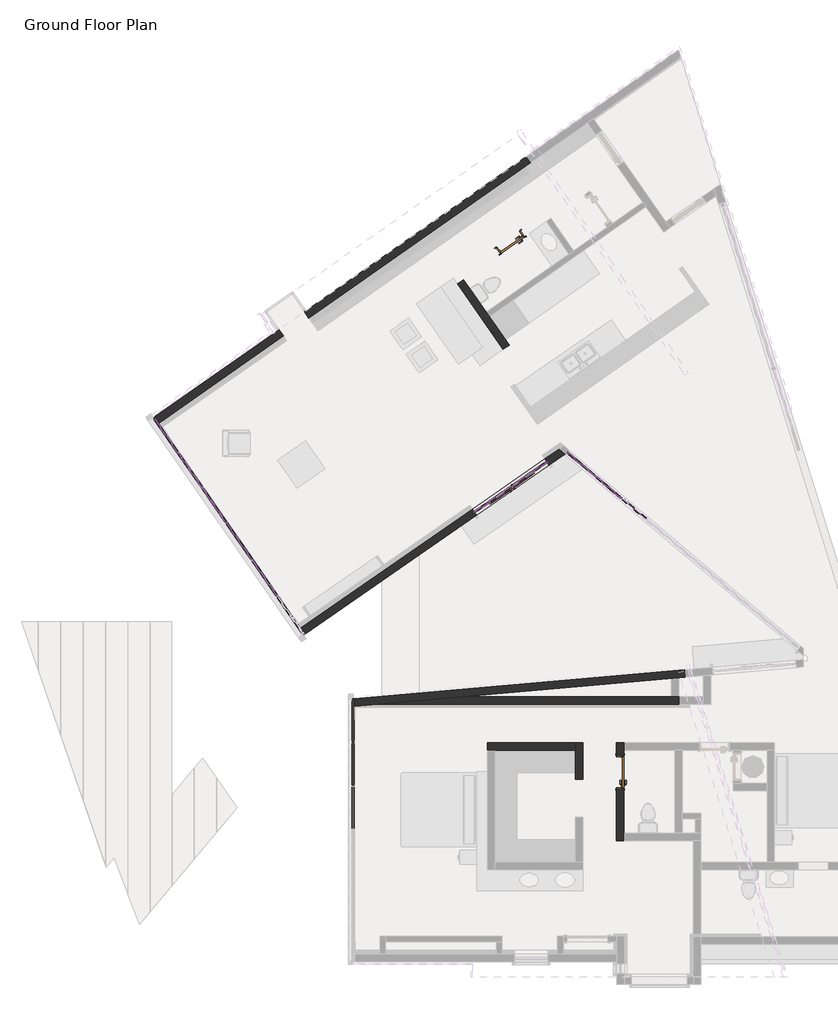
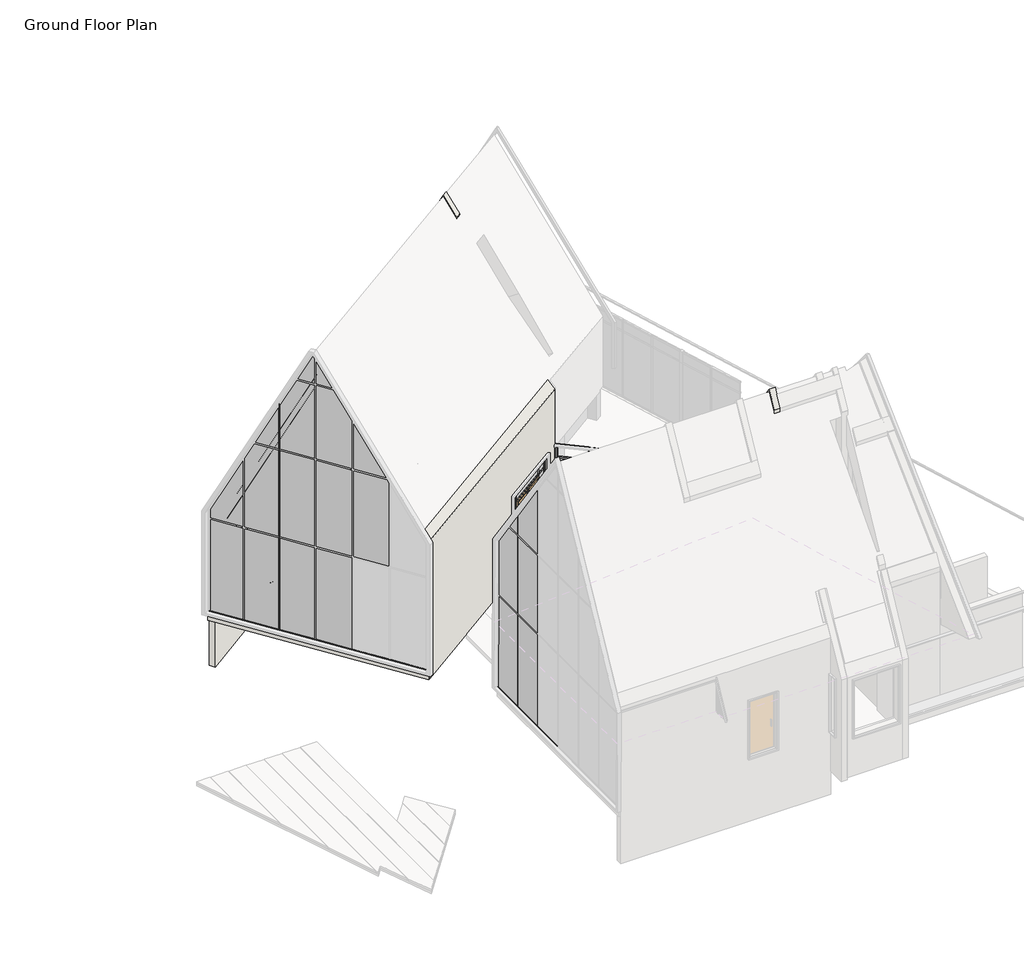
# One storey, part 2 of 5: 39 members, 25 plates, 10 walls, 3 doors.
"""IFC4 building model written with IfcOpenShell, lengths in millimetres."""

from ifc_helpers import new_model, si_unit, origin, origin_with_axes, place, context, project, spatial, polyline, outline, extrude, faceted_brep, transform, mapped, element, save
from components import doors_intsgl_810x2110mm_e568eb51, doors_intsgl_910x2110mm_46137337, m_door_curtain_wall_double_storefront_m_door_curtain_wall_3f7023ba, rectangular_mullion_50x150mm_25fa57b6, rectangular_mullion_50x150mm_a60d6222, rectangular_mullion_50x150mm_495123ae, rectangular_mullion_50x150mm_d93cb402, rectangular_mullion_50x150mm_c05da0b8, rectangular_mullion_50x150mm_9b9afa98, rectangular_mullion_50x150mm_3dc05bec, rectangular_mullion_50x150mm_6892ae44, rectangular_mullion_50x150mm_0beb519f, rectangular_mullion_50x150mm_d233cf5f, rectangular_mullion_50x150mm_42300aa9, rectangular_mullion_50x150mm_a088287e, rectangular_mullion_50x150mm_e39ed394, rectangular_mullion_50x150mm_51ed58aa, rectangular_mullion_50x150mm_ac0aef06, rectangular_mullion_50x150mm_60adff24, rectangular_mullion_50x150mm_6c6b3207, system_panel_glazed_c96be091, system_panel_glazed_a26fe342, system_panel_glazed_4aa1e5e2, system_panel_glazed_9e3d2c9e, system_panel_glazed_a7ec9935, system_panel_glazed_06d969fb, system_panel_glazed_d3df0774, system_panel_glazed_f7285a28, system_panel_glazed_f8538ccb, system_panel_glazed_5ca7e2f6, system_panel_glazed_4028a920, system_panel_glazed_a2f8f6d2, system_panel_glazed_759725ad, system_panel_glazed_6cebac1c, system_panel_glazed_4f0944f6, system_panel_glazed_2c7f7bc3, system_panel_glazed_912d2ec5, system_panel_glazed_2_529b0a8b, system_panel_glazed_3_6ecbbff0, system_panel_glazed_3_8976361c

model = new_model("IFC4")

# Units and contexts
model_context = context("Model", 3, world=origin())
ifc_project = project(units=[si_unit("LENGTHUNIT", "METRE", prefix="MILLI")], contexts=[model_context])

# Site, building, storey
site = spatial("IfcSite", under=ifc_project)
building = spatial("IfcBuilding", under=site)
storey = spatial("IfcBuildingStorey", under=building, Name="Ground Floor Plan", Elevation=0.0)

# Doors
placement = place(None, origin())
doors_intsgl_810x2110mm_shape = doors_intsgl_810x2110mm_e568eb51(model_context)
element("IfcDoor", 1, ObjectType="Doors_IntSgl : 810x2110mm", at=placement, inside=storey, context=model_context, shape_type="MappedRepresentation", body=[
    mapped(doors_intsgl_810x2110mm_shape, transform((-3413.2346211, 14930.5773501, 142.0), x_axis=(-0.8191520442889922, -0.5735764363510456, 0.0), y_axis=(0.5735764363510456, -0.8191520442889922, 0.0), z_axis=(0.0, 0.0, 1.0))),
])
doors_intsgl_910x2110mm_shape = doors_intsgl_910x2110mm_46137337(model_context)
element("IfcDoor", 2, ObjectType="Doors_IntSgl : 910x2110mm", at=placement, inside=storey, context=model_context, shape_type="MappedRepresentation", body=[
    mapped(doors_intsgl_910x2110mm_shape, transform((-471.2135347, 732.8022092, -8.0), x_axis=(0.0, 1.0, 0.0), y_axis=(-1.0, 0.0, 0.0), z_axis=(0.0, 0.0, 1.0))),
])
m_door_curtain_wall_double_storefront_m_door_curtain_wall_shape = m_door_curtain_wall_double_storefront_m_door_curtain_wall_3f7023ba(model_context)
element("IfcDoor", 3, ObjectType="M_Door-Curtain-Wall-Double-Storefront : M_Door-Curtain-Wall-Double-Storefront", at=placement, inside=storey, context=model_context, shape_type="MappedRepresentation", body=[
    mapped(m_door_curtain_wall_double_storefront_m_door_curtain_wall_shape, transform((-3403.7720782, 8372.1225097, 200.0), x_axis=(0.8223851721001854, 0.5689311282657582, 0.0), y_axis=(-0.5689311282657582, 0.8223851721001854, 0.0), z_axis=(0.0, 0.0, 1.0))),
])

# Members
rectangular_mullion_50x150mm_shape = rectangular_mullion_50x150mm_25fa57b6(model_context)
element("IfcMember", 4, ObjectType="Rectangular Mullion : 50x150mm", at=placement, inside=storey, context=model_context, shape_type="MappedRepresentation", body=[
    mapped(rectangular_mullion_50x150mm_shape, transform((-11674.3512302, 8352.9666925, 300.0), x_axis=(0.0, 0.0, -1.0), y_axis=(-0.8223851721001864, -0.5689311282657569, 0.0), z_axis=(-0.5689311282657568, 0.8223851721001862, 0.0))),
])
element("IfcMember", 5, ObjectType="Rectangular Mullion : 50x150mm", at=placement, inside=storey, context=model_context, shape_type="MappedRepresentation", body=[
    mapped(rectangular_mullion_50x150mm_shape, transform((-12324.6563321, 9292.9772607, 300.0), x_axis=(0.0, 0.0, -1.0), y_axis=(-0.8223851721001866, -0.5689311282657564, 0.0), z_axis=(-0.5689311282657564, 0.8223851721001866, 0.0))),
])
rectangular_mullion_50x150mm_2_shape = rectangular_mullion_50x150mm_a60d6222(model_context)
element("IfcMember", 6, ObjectType="Rectangular Mullion : 50x150mm", at=placement, inside=storey, context=model_context, shape_type="MappedRepresentation", body=[
    mapped(rectangular_mullion_50x150mm_2_shape, transform((-11024.0461283, 7412.9561242, 300.0), x_axis=(0.0, 0.0, -1.0), y_axis=(-0.8223851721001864, -0.5689311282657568, 0.0), z_axis=(-0.5689311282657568, 0.8223851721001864, 0.0))),
])
element("IfcMember", 7, ObjectType="Rectangular Mullion : 50x150mm", at=placement, inside=storey, context=model_context, shape_type="MappedRepresentation", body=[
    mapped(rectangular_mullion_50x150mm_2_shape, transform((-10335.8122845, 6418.1198779, 300.0), x_axis=(0.0, 0.0, -1.0), y_axis=(-0.8223851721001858, -0.5689311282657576, 0.0), z_axis=(-0.5689311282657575, 0.8223851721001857, 0.0))),
])
element("IfcMember", 8, ObjectType="Rectangular Mullion : 50x150mm", at=placement, inside=storey, context=model_context, shape_type="MappedRepresentation", body=[
    mapped(rectangular_mullion_50x150mm_2_shape, transform((-9647.5784407, 5423.2836315, 300.0), x_axis=(0.0, 0.0, -1.0), y_axis=(-0.8223851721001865, -0.5689311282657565, 0.0), z_axis=(-0.5689311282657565, 0.8223851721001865, 0.0))),
])
rectangular_mullion_50x150mm_3_shape = rectangular_mullion_50x150mm_495123ae(model_context)
element("IfcMember", 9, ObjectType="Rectangular Mullion : 50x150mm", at=placement, inside=storey, context=model_context, shape_type="MappedRepresentation", body=[
    mapped(rectangular_mullion_50x150mm_3_shape, transform((-7628.59105, 365.5965496, 300.0), x_axis=(0.0, 0.0, -1.0), y_axis=(-1.0, 0.0, 0.0), z_axis=(0.0, 1.0, 0.0))),
])
element("IfcMember", 10, ObjectType="Rectangular Mullion : 50x150mm", at=placement, inside=storey, context=model_context, shape_type="MappedRepresentation", body=[
    mapped(rectangular_mullion_50x150mm_3_shape, transform((-7628.59105, 1533.2395184, 300.0), x_axis=(0.0, 0.0, -1.0), y_axis=(-1.0, 0.0, 0.0), z_axis=(0.0, 1.0, 0.0))),
])
rectangular_mullion_50x150mm_4_shape = rectangular_mullion_50x150mm_d93cb402(model_context)
element("IfcMember", 11, ObjectType="Rectangular Mullion : 50x150mm", at=placement, inside=storey, context=model_context, shape_type="MappedRepresentation", body=[
    mapped(rectangular_mullion_50x150mm_4_shape, transform((-12952.0448904, 10199.8621574, 300.0), x_axis=(0.0, 0.0, -1.0), y_axis=(-0.8223851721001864, -0.5689311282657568, 0.0), z_axis=(-0.5689311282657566, 0.8223851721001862, 0.0))),
])
element("IfcMember", 12, ObjectType="Rectangular Mullion : 50x150mm", at=placement, inside=storey, context=model_context, shape_type="MappedRepresentation", body=[
    mapped(rectangular_mullion_50x150mm_3_shape, transform((-7628.59105, 2700.8824873, 300.0), x_axis=(0.0, 0.0, -1.0), y_axis=(-1.0, 0.0, 0.0), z_axis=(0.0, 1.0, 0.0))),
])
rectangular_mullion_50x150mm_5_shape = rectangular_mullion_50x150mm_c05da0b8(model_context)
element("IfcMember", 13, ObjectType="Rectangular Mullion : 50x150mm", at=placement, inside=storey, context=model_context, shape_type="MappedRepresentation", body=[
    mapped(rectangular_mullion_50x150mm_5_shape, transform((-1109.694548, 8642.7845682, 150.0), x_axis=(0.0, 0.0, -1.0), y_axis=(-0.6453696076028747, -0.7638704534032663, 0.0), z_axis=(-0.7638704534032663, 0.6453696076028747, 0.0))),
])
element("IfcMember", 14, ObjectType="Rectangular Mullion : 50x150mm", at=placement, inside=storey, context=model_context, shape_type="MappedRepresentation", body=[
    mapped(rectangular_mullion_50x150mm_5_shape, transform((-422.21114, 8061.9519213, 150.0), x_axis=(0.0, 0.0, -1.0), y_axis=(-0.6453696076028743, -0.7638704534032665, 0.0), z_axis=(-0.7638704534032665, 0.6453696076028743, 0.0))),
])
rectangular_mullion_50x150mm_6_shape = rectangular_mullion_50x150mm_9b9afa98(model_context)
element("IfcMember", 15, ObjectType="Rectangular Mullion : 50x150mm", at=placement, inside=storey, context=model_context, shape_type="MappedRepresentation", body=[
    mapped(rectangular_mullion_50x150mm_6_shape, transform((-4020.5609573, 7945.4241635, 150.0), x_axis=(0.8223851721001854, 0.5689311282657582, 0.0), y_axis=(0.5689311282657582, -0.8223851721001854, 0.0), z_axis=(0.0, 0.0, -1.0))),
])
element("IfcMember", 16, ObjectType="Rectangular Mullion : 50x150mm", at=placement, inside=storey, context=model_context, shape_type="MappedRepresentation", body=[
    mapped(rectangular_mullion_50x150mm_6_shape, transform((-2786.9831992, 8798.8208559, 150.0), x_axis=(0.8223851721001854, 0.5689311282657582, 0.0), y_axis=(0.5689311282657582, -0.8223851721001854, 0.0), z_axis=(0.0, 0.0, -1.0))),
])
element("IfcMember", 17, ObjectType="Rectangular Mullion : 50x150mm", at=placement, inside=storey, context=model_context, shape_type="MappedRepresentation", body=[
    mapped(rectangular_mullion_50x150mm_6_shape, transform((-1128.7913094, 8658.9188084, 150.0), x_axis=(0.7638704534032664, -0.6453696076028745, 0.0), y_axis=(-0.6453696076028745, -0.7638704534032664, 0.0), z_axis=(0.0, 0.0, -1.0))),
])
element("IfcMember", 18, ObjectType="Rectangular Mullion : 50x150mm", at=placement, inside=storey, context=model_context, shape_type="MappedRepresentation", body=[
    mapped(rectangular_mullion_50x150mm_6_shape, transform((-441.3079013, 8078.0861615, 150.0), x_axis=(0.7638704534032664, -0.6453696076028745, 0.0), y_axis=(-0.6453696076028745, -0.7638704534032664, 0.0), z_axis=(0.0, 0.0, -1.0))),
])
rectangular_mullion_50x150mm_7_shape = rectangular_mullion_50x150mm_3dc05bec(model_context)
element("IfcMember", 19, ObjectType="Rectangular Mullion : 50x150mm", at=placement, inside=storey, context=model_context, shape_type="MappedRepresentation", body=[
    mapped(rectangular_mullion_50x150mm_7_shape, transform((-2433.3575752, 9043.4612411, 150.0), x_axis=(0.8223851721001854, 0.5689311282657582, 0.0), y_axis=(0.5689311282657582, -0.8223851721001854, 0.0), z_axis=(0.0, 0.0, -1.0))),
])
element("IfcMember", 20, ObjectType="Rectangular Mullion : 50x150mm", at=placement, inside=storey, context=model_context, shape_type="MappedRepresentation", body=[
    mapped(rectangular_mullion_50x150mm_7_shape, transform((-1887.216233, 9299.6876628, 2450.0), x_axis=(-0.7638704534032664, 0.6453696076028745, 0.0), y_axis=(-0.6453696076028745, -0.7638704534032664, 0.0), z_axis=(0.0, 0.0, 1.0))),
])
element("IfcMember", 21, ObjectType="Rectangular Mullion : 50x150mm", at=placement, inside=storey, context=model_context, shape_type="MappedRepresentation", body=[
    mapped(rectangular_mullion_50x150mm_7_shape, transform((-4374.1865813, 7700.7837784, 2450.0), x_axis=(-0.8223851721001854, -0.5689311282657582, 0.0), y_axis=(0.5689311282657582, -0.8223851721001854, 0.0), z_axis=(0.0, 0.0, 1.0))),
])
rectangular_mullion_50x150mm_8_shape = rectangular_mullion_50x150mm_6892ae44(model_context)
element("IfcMember", 22, ObjectType="Rectangular Mullion : 50x150mm", at=placement, inside=storey, context=model_context, shape_type="MappedRepresentation", body=[
    mapped(rectangular_mullion_50x150mm_8_shape, transform((-4333.0673227, 7729.2303348, 150.0), x_axis=(0.0, 0.0, -1.0), y_axis=(0.5689311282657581, -0.8223851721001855, 0.0), z_axis=(-0.8223851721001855, -0.5689311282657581, 0.0))),
])
rectangular_mullion_50x150mm_9_shape = rectangular_mullion_50x150mm_0beb519f(model_context)
element("IfcMember", 23, ObjectType="Rectangular Mullion : 50x150mm", at=placement, inside=storey, context=model_context, shape_type="MappedRepresentation", body=[
    mapped(rectangular_mullion_50x150mm_9_shape, transform((-4000.001328, 7959.6474417, 150.0), x_axis=(0.0, 0.0, -1.0), y_axis=(0.5689311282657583, -0.8223851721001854, 0.0), z_axis=(-0.8223851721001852, -0.5689311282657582, 0.0))),
])
element("IfcMember", 24, ObjectType="Rectangular Mullion : 50x150mm", at=placement, inside=storey, context=model_context, shape_type="MappedRepresentation", body=[
    mapped(rectangular_mullion_50x150mm_8_shape, transform((-2766.4235699, 8813.0441341, 150.0), x_axis=(0.0, 0.0, -1.0), y_axis=(0.5689311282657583, -0.8223851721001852, 0.0), z_axis=(-0.8223851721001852, -0.5689311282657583, 0.0))),
])
element("IfcMember", 25, ObjectType="Rectangular Mullion : 50x150mm", at=placement, inside=storey, context=model_context, shape_type="MappedRepresentation", body=[
    mapped(rectangular_mullion_50x150mm_8_shape, transform((-2474.4768338, 9015.0146847, 2900.0), x_axis=(0.0, 0.0, 1.0), y_axis=(0.5689311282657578, -0.8223851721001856, 0.0), z_axis=(0.8223851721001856, 0.5689311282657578, 0.0))),
])
element("IfcMember", 26, ObjectType="Rectangular Mullion : 50x150mm", at=placement, inside=storey, context=model_context, shape_type="MappedRepresentation", body=[
    mapped(rectangular_mullion_50x150mm_8_shape, transform((-4041.1205866, 7931.2008853, 2900.0), x_axis=(0.0, 0.0, 1.0), y_axis=(0.5689311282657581, -0.8223851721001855, 0.0), z_axis=(0.8223851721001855, 0.5689311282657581, 0.0))),
])
element("IfcMember", 27, ObjectType="Rectangular Mullion : 50x150mm", at=placement, inside=storey, context=model_context, shape_type="MappedRepresentation", body=[
    mapped(rectangular_mullion_50x150mm_9_shape, transform((-2807.5428285, 8784.5975777, 2900.0), x_axis=(0.0, 0.0, 1.0), y_axis=(0.5689311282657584, -0.8223851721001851, 0.0), z_axis=(0.8223851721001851, 0.5689311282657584, 0.0))),
])
rectangular_mullion_50x150mm_10_shape = rectangular_mullion_50x150mm_d233cf5f(model_context)
element("IfcMember", 28, ObjectType="Rectangular Mullion : 50x150mm", at=placement, inside=storey, context=model_context, shape_type="MappedRepresentation", body=[
    mapped(rectangular_mullion_50x150mm_10_shape, transform((-1128.7913094, 8658.9188084, 2450.0), x_axis=(0.7638704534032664, -0.6453696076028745, 0.0), y_axis=(-0.6453696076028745, -0.7638704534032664, 0.0), z_axis=(0.0, 0.0, -1.0))),
])
element("IfcMember", 29, ObjectType="Rectangular Mullion : 50x150mm", at=placement, inside=storey, context=model_context, shape_type="MappedRepresentation", body=[
    mapped(rectangular_mullion_50x150mm_10_shape, transform((-441.3079013, 8078.0861615, 2450.0), x_axis=(0.7638704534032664, -0.6453696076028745, 0.0), y_axis=(-0.6453696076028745, -0.7638704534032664, 0.0), z_axis=(0.0, 0.0, -1.0))),
])
element("IfcMember", 30, ObjectType="Rectangular Mullion : 50x150mm", at=placement, inside=storey, context=model_context, shape_type="MappedRepresentation", body=[
    mapped(rectangular_mullion_50x150mm_10_shape, transform((-4020.5609573, 7945.4241635, 2450.0), x_axis=(0.8223851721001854, 0.5689311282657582, 0.0), y_axis=(0.5689311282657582, -0.8223851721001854, 0.0), z_axis=(0.0, 0.0, -1.0))),
])
element("IfcMember", 31, ObjectType="Rectangular Mullion : 50x150mm", at=placement, inside=storey, context=model_context, shape_type="MappedRepresentation", body=[
    mapped(rectangular_mullion_50x150mm_10_shape, transform((-2786.9831992, 8798.8208559, 2450.0), x_axis=(0.8223851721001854, 0.5689311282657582, 0.0), y_axis=(0.5689311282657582, -0.8223851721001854, 0.0), z_axis=(0.0, 0.0, -1.0))),
])
rectangular_mullion_50x150mm_11_shape = rectangular_mullion_50x150mm_42300aa9(model_context)
element("IfcMember", 32, ObjectType="Rectangular Mullion : 50x150mm", at=placement, inside=storey, context=model_context, shape_type="MappedRepresentation", body=[
    mapped(rectangular_mullion_50x150mm_11_shape, transform((-2474.4768338, 9015.0146847, 2450.0), x_axis=(0.0, 0.0, 1.0), y_axis=(0.5689311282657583, -0.8223851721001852, 0.0), z_axis=(0.8223851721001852, 0.5689311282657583, 0.0))),
])
rectangular_mullion_50x150mm_12_shape = rectangular_mullion_50x150mm_a088287e(model_context)
element("IfcMember", 33, ObjectType="Rectangular Mullion : 50x150mm", at=placement, inside=storey, context=model_context, shape_type="MappedRepresentation", body=[
    mapped(rectangular_mullion_50x150mm_12_shape, transform((-2807.5428285, 8784.5975777, 2450.0), x_axis=(0.0, 0.0, 1.0), y_axis=(0.5689311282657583, -0.8223851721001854, 0.0), z_axis=(0.8223851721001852, 0.5689311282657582, 0.0))),
])
element("IfcMember", 34, ObjectType="Rectangular Mullion : 50x150mm", at=placement, inside=storey, context=model_context, shape_type="MappedRepresentation", body=[
    mapped(rectangular_mullion_50x150mm_11_shape, transform((-4041.1205866, 7931.2008853, 2450.0), x_axis=(0.0, 0.0, 1.0), y_axis=(0.5689311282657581, -0.8223851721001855, 0.0), z_axis=(0.8223851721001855, 0.5689311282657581, 0.0))),
])
rectangular_mullion_50x150mm_13_shape = rectangular_mullion_50x150mm_e39ed394(model_context)
element("IfcMember", 35, ObjectType="Rectangular Mullion : 50x150mm", at=placement, inside=storey, context=model_context, shape_type="MappedRepresentation", body=[
    mapped(rectangular_mullion_50x150mm_13_shape, transform((-4374.1865813, 7700.7837784, 2900.0), x_axis=(-0.8223851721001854, -0.5689311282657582, 0.0), y_axis=(0.5689311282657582, -0.8223851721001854, 0.0), z_axis=(0.0, 0.0, 1.0))),
])
element("IfcMember", 36, ObjectType="Rectangular Mullion : 50x150mm", at=placement, inside=storey, context=model_context, shape_type="MappedRepresentation", body=[
    mapped(rectangular_mullion_50x150mm_13_shape, transform((-2433.3575752, 9043.4612411, 2450.0), x_axis=(0.8223851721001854, 0.5689311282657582, 0.0), y_axis=(0.5689311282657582, -0.8223851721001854, 0.0), z_axis=(0.0, 0.0, -1.0))),
])
rectangular_mullion_50x150mm_14_shape = rectangular_mullion_50x150mm_51ed58aa(model_context)
element("IfcMember", 37, ObjectType="Rectangular Mullion : 50x150mm", at=placement, inside=storey, context=model_context, shape_type="MappedRepresentation", body=[
    mapped(rectangular_mullion_50x150mm_14_shape, transform((-460.4046626, 8094.2204017, 2450.0), x_axis=(0.0, 0.0, 1.0), y_axis=(-0.6453696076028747, -0.7638704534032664, 0.0), z_axis=(0.7638704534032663, -0.6453696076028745, 0.0))),
])
element("IfcMember", 38, ObjectType="Rectangular Mullion : 50x150mm", at=placement, inside=storey, context=model_context, shape_type="MappedRepresentation", body=[
    mapped(rectangular_mullion_50x150mm_13_shape, transform((-1887.216233, 9299.6876628, 2900.0), x_axis=(-0.7638704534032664, 0.6453696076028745, 0.0), y_axis=(-0.6453696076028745, -0.7638704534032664, 0.0), z_axis=(0.0, 0.0, 1.0))),
])
rectangular_mullion_50x150mm_15_shape = rectangular_mullion_50x150mm_ac0aef06(model_context)
element("IfcMember", 39, ObjectType="Rectangular Mullion : 50x150mm", at=placement, inside=storey, context=model_context, shape_type="MappedRepresentation", body=[
    mapped(rectangular_mullion_50x150mm_15_shape, transform((-1849.0227104, 9267.4191825, 150.0), x_axis=(0.0, 0.0, -1.0), y_axis=(-0.6453696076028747, -0.7638704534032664, 0.0), z_axis=(-0.7638704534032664, 0.6453696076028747, 0.0))),
])
rectangular_mullion_50x150mm_16_shape = rectangular_mullion_50x150mm_60adff24(model_context)
element("IfcMember", 40, ObjectType="Rectangular Mullion : 50x150mm", at=placement, inside=storey, context=model_context, shape_type="MappedRepresentation", body=[
    mapped(rectangular_mullion_50x150mm_16_shape, transform((-1147.8880707, 8675.0530486, 2450.0), x_axis=(0.0, 0.0, 1.0), y_axis=(-0.6453696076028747, -0.7638704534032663, 0.0), z_axis=(0.7638704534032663, -0.6453696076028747, 0.0))),
])
element("IfcMember", 41, ObjectType="Rectangular Mullion : 50x150mm", at=placement, inside=storey, context=model_context, shape_type="MappedRepresentation", body=[
    mapped(rectangular_mullion_50x150mm_5_shape, transform((-460.4046626, 8094.2204017, 2900.0), x_axis=(0.0, 0.0, 1.0), y_axis=(-0.6453696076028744, -0.7638704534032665, 0.0), z_axis=(0.7638704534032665, -0.6453696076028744, 0.0))),
])
rectangular_mullion_50x150mm_17_shape = rectangular_mullion_50x150mm_6c6b3207(model_context)
element("IfcMember", 42, ObjectType="Rectangular Mullion : 50x150mm", at=placement, inside=storey, context=model_context, shape_type="MappedRepresentation", body=[
    mapped(rectangular_mullion_50x150mm_17_shape, transform((-1147.8880707, 8675.0530486, 2900.0), x_axis=(0.0, 0.0, 1.0), y_axis=(-0.6453696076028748, -0.7638704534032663, 0.0), z_axis=(0.7638704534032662, -0.6453696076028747, 0.0))),
])

# Plates
system_panel_glazed_shape = system_panel_glazed_c96be091(model_context)
element("IfcPlate", 43, ObjectType="System Panel : Glazed", at=placement, inside=storey, context=model_context, shape_type="MappedRepresentation", body=[
    mapped(system_panel_glazed_shape, transform((-11349.1986793, 7882.9614083, 6709.3032525), x_axis=(0.5689311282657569, -0.8223851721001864, 0.0), y_axis=(0.8223851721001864, 0.5689311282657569, 0.0), z_axis=(0.0, 0.0, 1.0))),
])
system_panel_glazed_2_shape = system_panel_glazed_a26fe342(model_context)
element("IfcPlate", 44, ObjectType="System Panel : Glazed", at=placement, inside=storey, context=model_context, shape_type="MappedRepresentation", body=[
    mapped(system_panel_glazed_2_shape, transform((-10679.9292064, 6915.538001, 6709.3032525), x_axis=(0.5689311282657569, -0.8223851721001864, 0.0), y_axis=(0.8223851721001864, 0.5689311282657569, 0.0), z_axis=(0.0, 0.0, 1.0))),
])
system_panel_glazed_3_shape = system_panel_glazed_4aa1e5e2(model_context)
element("IfcPlate", 45, ObjectType="System Panel : Glazed", at=placement, inside=storey, context=model_context, shape_type="MappedRepresentation", body=[
    mapped(system_panel_glazed_3_shape, transform((-9995.9204202, 5926.80904, 6709.3032525), x_axis=(0.5689311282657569, -0.8223851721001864, 0.0), y_axis=(0.8223851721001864, 0.5689311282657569, 0.0), z_axis=(0.0, 0.0, 1.0))),
])
system_panel_glazed_4_shape = system_panel_glazed_9e3d2c9e(model_context)
element("IfcPlate", 46, ObjectType="System Panel : Glazed", at=placement, inside=storey, context=model_context, shape_type="MappedRepresentation", body=[
    mapped(system_panel_glazed_4_shape, transform((-9991.6953626, 5920.7017547, 3609.3032525), x_axis=(0.5689311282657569, -0.8223851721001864, 0.0), y_axis=(0.8223851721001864, 0.5689311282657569, 0.0), z_axis=(0.0, 0.0, 1.0))),
])
system_panel_glazed_5_shape = system_panel_glazed_a7ec9935(model_context)
element("IfcPlate", 47, ObjectType="System Panel : Glazed", at=placement, inside=storey, context=model_context, shape_type="MappedRepresentation", body=[
    mapped(system_panel_glazed_5_shape, transform((-11349.1986793, 7882.9614083, 350.0), x_axis=(0.5689311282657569, -0.8223851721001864, 0.0), y_axis=(0.8223851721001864, 0.5689311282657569, 0.0), z_axis=(0.0, 0.0, 1.0))),
])
element("IfcPlate", 48, ObjectType="System Panel : Glazed", at=placement, inside=storey, context=model_context, shape_type="MappedRepresentation", body=[
    mapped(system_panel_glazed_5_shape, transform((-11999.5037812, 8822.9719766, 350.0), x_axis=(0.5689311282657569, -0.8223851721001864, 0.0), y_axis=(0.8223851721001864, 0.5689311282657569, 0.0), z_axis=(0.0, 0.0, 1.0))),
])
system_panel_glazed_6_shape = system_panel_glazed_06d969fb(model_context)
element("IfcPlate", 49, ObjectType="System Panel : Glazed", at=placement, inside=storey, context=model_context, shape_type="MappedRepresentation", body=[
    mapped(system_panel_glazed_6_shape, transform((-10679.9292064, 6915.538001, 350.0), x_axis=(0.5689311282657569, -0.8223851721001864, 0.0), y_axis=(0.8223851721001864, 0.5689311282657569, 0.0), z_axis=(0.0, 0.0, 1.0))),
])
system_panel_glazed_7_shape = system_panel_glazed_d3df0774(model_context)
element("IfcPlate", 50, ObjectType="System Panel : Glazed", at=placement, inside=storey, context=model_context, shape_type="MappedRepresentation", body=[
    mapped(system_panel_glazed_7_shape, transform((-11349.1986793, 7882.9614083, 3609.3032525), x_axis=(0.5689311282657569, -0.8223851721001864, 0.0), y_axis=(0.8223851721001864, 0.5689311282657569, 0.0), z_axis=(0.0, 0.0, 1.0))),
])
system_panel_glazed_8_shape = system_panel_glazed_f7285a28(model_context)
element("IfcPlate", 51, ObjectType="System Panel : Glazed", at=placement, inside=storey, context=model_context, shape_type="MappedRepresentation", body=[
    mapped(system_panel_glazed_8_shape, transform((-10679.9292064, 6915.538001, 3609.3032525), x_axis=(0.5689311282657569, -0.8223851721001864, 0.0), y_axis=(0.8223851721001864, 0.5689311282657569, 0.0), z_axis=(0.0, 0.0, 1.0))),
])
system_panel_glazed_9_shape = system_panel_glazed_f8538ccb(model_context)
element("IfcPlate", 52, ObjectType="System Panel : Glazed", at=placement, inside=storey, context=model_context, shape_type="MappedRepresentation", body=[
    mapped(system_panel_glazed_9_shape, transform((-12638.3506113, 9746.419709, 350.0), x_axis=(0.5689311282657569, -0.8223851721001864, 0.0), y_axis=(0.8223851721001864, 0.5689311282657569, 0.0), z_axis=(0.0, 0.0, 1.0))),
])
system_panel_glazed_10_shape = system_panel_glazed_5ca7e2f6(model_context)
element("IfcPlate", 53, ObjectType="System Panel : Glazed", at=placement, inside=storey, context=model_context, shape_type="MappedRepresentation", body=[
    mapped(system_panel_glazed_10_shape, transform((-11917.636464, 8704.6334565, 6709.3032525), x_axis=(0.5689311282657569, -0.8223851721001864, 0.0), y_axis=(0.8223851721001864, 0.5689311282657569, 0.0), z_axis=(0.0, 0.0, 1.0))),
])
system_panel_glazed_11_shape = system_panel_glazed_4028a920(model_context)
element("IfcPlate", 54, ObjectType="System Panel : Glazed", at=placement, inside=storey, context=model_context, shape_type="MappedRepresentation", body=[
    mapped(system_panel_glazed_11_shape, transform((-12638.3506113, 9746.419709, 3609.3032525), x_axis=(0.5689311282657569, -0.8223851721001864, 0.0), y_axis=(0.8223851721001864, 0.5689311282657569, 0.0), z_axis=(0.0, 0.0, 1.0))),
])
system_panel_glazed_12_shape = system_panel_glazed_a2f8f6d2(model_context)
element("IfcPlate", 55, ObjectType="System Panel : Glazed", at=placement, inside=storey, context=model_context, shape_type="MappedRepresentation", body=[
    mapped(system_panel_glazed_12_shape, transform((-11999.5037812, 8822.9719766, 3609.3032525), x_axis=(0.5689311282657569, -0.8223851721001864, 0.0), y_axis=(0.8223851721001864, 0.5689311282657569, 0.0), z_axis=(0.0, 0.0, 1.0))),
])
system_panel_glazed_13_shape = system_panel_glazed_759725ad(model_context)
element("IfcPlate", 56, ObjectType="System Panel : Glazed", at=placement, inside=storey, context=model_context, shape_type="MappedRepresentation", body=[
    mapped(system_panel_glazed_13_shape, transform((-7628.59105, 2117.0610028, 350.0), x_axis=(0.0, -1.0, 0.0), y_axis=(1.0, 0.0, 0.0), z_axis=(0.0, 0.0, 1.0))),
])
system_panel_glazed_14_shape = system_panel_glazed_6cebac1c(model_context)
element("IfcPlate", 57, ObjectType="System Panel : Glazed", at=placement, inside=storey, context=model_context, shape_type="MappedRepresentation", body=[
    mapped(system_panel_glazed_14_shape, transform((-7628.59105, 949.418034, 350.0), x_axis=(0.0, -1.0, 0.0), y_axis=(1.0, 0.0, 0.0), z_axis=(0.0, 0.0, 1.0))),
])
system_panel_glazed_15_shape = system_panel_glazed_4f0944f6(model_context)
element("IfcPlate", 58, ObjectType="System Panel : Glazed", at=placement, inside=storey, context=model_context, shape_type="MappedRepresentation", body=[
    mapped(system_panel_glazed_15_shape, transform((-785.0496053, 8368.502485, 200.0), x_axis=(0.7638704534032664, -0.6453696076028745, 0.0), y_axis=(0.6453696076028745, 0.7638704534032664, 0.0), z_axis=(0.0, 0.0, 1.0))),
])
element("IfcPlate", 59, ObjectType="System Panel : Glazed", at=placement, inside=storey, context=model_context, shape_type="MappedRepresentation", body=[
    mapped(system_panel_glazed_15_shape, transform((-97.5661973, 7787.6698381, 200.0), x_axis=(0.7638704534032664, -0.6453696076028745, 0.0), y_axis=(0.6453696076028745, 0.7638704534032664, 0.0), z_axis=(0.0, 0.0, 1.0))),
])
system_panel_glazed_16_shape = system_panel_glazed_2c7f7bc3(model_context)
element("IfcPlate", 60, ObjectType="System Panel : Glazed", at=placement, inside=storey, context=model_context, shape_type="MappedRepresentation", body=[
    mapped(system_panel_glazed_16_shape, transform((-4187.0939547, 7830.21561, 200.0), x_axis=(0.8223851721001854, 0.5689311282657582, 0.0), y_axis=(-0.5689311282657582, 0.8223851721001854, 0.0), z_axis=(0.0, 0.0, 1.0))),
])
element("IfcPlate", 61, ObjectType="System Panel : Glazed", at=placement, inside=storey, context=model_context, shape_type="MappedRepresentation", body=[
    mapped(system_panel_glazed_16_shape, transform((-2620.4502018, 8914.0294094, 200.0), x_axis=(0.8223851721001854, 0.5689311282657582, 0.0), y_axis=(-0.5689311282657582, 0.8223851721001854, 0.0), z_axis=(0.0, 0.0, 1.0))),
])
system_panel_glazed_17_shape = system_panel_glazed_912d2ec5(model_context)
element("IfcPlate", 62, ObjectType="System Panel : Glazed", at=placement, inside=storey, context=model_context, shape_type="MappedRepresentation", body=[
    mapped(system_panel_glazed_17_shape, transform((-1498.4553905, 8971.2361155, 200.0), x_axis=(0.7638704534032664, -0.6453696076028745, 0.0), y_axis=(0.6453696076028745, 0.7638704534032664, 0.0), z_axis=(0.0, 0.0, 1.0))),
])
system_panel_glazed_2_2_shape = system_panel_glazed_2_529b0a8b(model_context)
element("IfcPlate", 63, ObjectType="System Panel : Glazed 2", at=placement, inside=storey, context=model_context, shape_type="MappedRepresentation", body=[
    mapped(system_panel_glazed_2_2_shape, transform((-785.0496053, 8368.502485, 2475.0), x_axis=(0.7638704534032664, -0.6453696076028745, 0.0), y_axis=(0.6453696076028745, 0.7638704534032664, 0.0), z_axis=(0.0, 0.0, 1.0))),
])
element("IfcPlate", 64, ObjectType="System Panel : Glazed 2", at=placement, inside=storey, context=model_context, shape_type="MappedRepresentation", body=[
    mapped(system_panel_glazed_2_2_shape, transform((-97.5661973, 7787.6698381, 2475.0), x_axis=(0.7638704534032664, -0.6453696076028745, 0.0), y_axis=(0.6453696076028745, 0.7638704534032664, 0.0), z_axis=(0.0, 0.0, 1.0))),
])
system_panel_glazed_3_2_shape = system_panel_glazed_3_6ecbbff0(model_context)
element("IfcPlate", 65, ObjectType="System Panel : Glazed 3", at=placement, inside=storey, context=model_context, shape_type="MappedRepresentation", body=[
    mapped(system_panel_glazed_3_2_shape, transform((-4187.0939547, 7830.21561, 2475.0), x_axis=(0.8223851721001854, 0.5689311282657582, 0.0), y_axis=(-0.5689311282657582, 0.8223851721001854, 0.0), z_axis=(0.0, 0.0, 1.0))),
])
element("IfcPlate", 66, ObjectType="System Panel : Glazed 3", at=placement, inside=storey, context=model_context, shape_type="MappedRepresentation", body=[
    mapped(system_panel_glazed_3_2_shape, transform((-2620.4502018, 8914.0294094, 2475.0), x_axis=(0.8223851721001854, 0.5689311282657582, 0.0), y_axis=(-0.5689311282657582, 0.8223851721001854, 0.0), z_axis=(0.0, 0.0, 1.0))),
])
system_panel_glazed_3_3_shape = system_panel_glazed_3_8976361c(model_context)
element("IfcPlate", 67, ObjectType="System Panel : Glazed 3", at=placement, inside=storey, context=model_context, shape_type="MappedRepresentation", body=[
    mapped(system_panel_glazed_3_3_shape, transform((-3403.7720782, 8372.1225097, 2475.0), x_axis=(0.8223851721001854, 0.5689311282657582, 0.0), y_axis=(-0.5689311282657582, 0.8223851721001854, 0.0), z_axis=(0.0, 0.0, 1.0))),
])

# Walls
element("IfcWall", 68, ObjectType="Dwarf wall", at=placement, inside=storey, context=model_context, shape_type="SweptSolid", body=[
    extrude(outline(polyline([(-8969.9375796, 4399.817403), (-12996.5322718, 10220.226244), (-12955.4130132, 10248.6728004), (-8928.818321, 4428.2639594), (-8969.9375796, 4399.817403)])), origin_with_axes(), (0.0, 0.0, 1.0), 300.0),
])
element("IfcWall", 69, ObjectType="DEFAULT", at=placement, inside=storey, context=model_context, shape_type="Brep", body=[
    faceted_brep([(-12817.787969, 10099.9532, -1653.684233), (-9496.2147174, 12425.7438296, -1653.684233), (-9496.2147174, 12425.7438296, 0.0), (-9496.2147174, 12425.7438296, 4263.7537785), (-12817.787969, 10099.9532, 4316.4983407), (-12932.5032563, 10263.7836089, -1653.684233), (-12932.5032563, 10263.7836089, 3928.0890695), (-9610.9300046, 12589.5742384, 3875.3445073), (-9610.9300046, 12589.5742384, 0.0), (-9610.9300046, 12589.5742384, -1653.684233)], [[[0, 1, 2, 3, 4]], [[5, 6, 7, 8, 9]], [[1, 0, 5, 9]], [[3, 2, 1, 9, 8, 7]], [[0, 4, 6, 5]], [[4, 3, 7, 6]]]),
])
element("IfcWall", 70, ObjectType="DEFAULT", at=placement, inside=storey, context=model_context, shape_type="Brep", body=[
    faceted_brep([(-8818.6256757, 12900.1967844, -1540.3482769), (-2880.0989759, 17058.3979454, -1540.3482769), (-2880.0989759, 17058.3979454, -424.4301837), (-2880.0989759, 17058.3979454, 3150.0), (-2880.0989759, 17058.3979454, 4158.693886), (-8818.6256757, 12900.1967844, 4252.9940768), (-8818.6256757, 12900.1967844, 0.0), (-8933.3409629, 13064.0271932, -1540.3482769), (-8933.3409629, 13064.0271932, 0.0), (-8933.3409629, 13064.0271932, 3864.5848056), (-2994.8142632, 17222.2283543, 3770.2846148), (-2994.8142632, 17222.2283543, 3150.0), (-2994.8142632, 17222.2283543, -424.4301837), (-2994.8142632, 17222.2283543, -1540.3482769)], [[[0, 1, 2, 3, 4, 5, 6]], [[7, 8, 9, 10, 11, 12, 13]], [[1, 0, 7, 13]], [[4, 3, 2, 1, 13, 12, 11, 10]], [[0, 6, 5, 9, 8, 7]], [[5, 4, 10, 9]]]),
])
element("IfcWall", 71, ObjectType="DEFAULT", at=placement, inside=storey, context=model_context, shape_type="Brep", body=[
    faceted_brep([(-8906.2027288, 4443.9095654, 0.0), (-1951.1101919, 9255.4854285, 0.0), (-1951.1101919, 9255.4854285, 4883.7709421), (-8906.2027288, 4443.9095654, 4870.3871265), (-4317.2934685, 7618.5452612, 150.0), (-4317.2934685, 7618.5452612, 2900.0), (-2376.4644623, 8961.2227239, 2900.0), (-2376.4644623, 8961.2227239, 150.0), (-2109.3708513, 9389.1947756, 0.0), (-9019.9889545, 4608.3865999, 0.0), (-9019.9889545, 4608.3865999, 5175.2734004), (-2109.3708513, 9389.1947756, 5188.5716331), (-2109.3708513, 9389.1947756, 2900.0), (-4431.0796941, 7783.0222956, 2900.0), (-4431.0796941, 7783.0222956, 150.0), (-2490.250688, 9125.6997583, 150.0), (-2490.250688, 9125.6997583, 2900.0)], [[[0, 1, 2, 3], [4, 5, 6, 7]], [[8, 9, 10, 11, 12], [13, 14, 15, 16]], [[1, 0, 9, 8]], [[0, 3, 10, 9]], [[4, 14, 13, 5]], [[5, 13, 16, 6]], [[6, 16, 15, 7]], [[14, 4, 7, 15]], [[3, 2, 11, 10]], [[1, 8, 12, 11, 2]]]),
])
element("IfcWall", 72, ObjectType="DEFAULT", at=placement, inside=storey, context=model_context, shape_type="Brep", body=[
    faceted_brep([(1108.3180922, 2750.1490812, 0.0), (908.3180922, 2750.1490812, 0.0), (-4710.0187087, 2750.1490812, 0.0), (-4710.0187087, 2750.1490812, 5531.7922181), (908.3180922, 2750.1490812, 5531.7922181), (1108.3180922, 2750.1490812, 5531.7922181), (1108.3180922, 2750.1490812, 2900.0), (1108.3180922, 2550.1490812, 0.0), (1108.3180922, 2550.1490812, 2900.0), (1108.3180922, 2550.1490812, 5811.5182512), (-6996.0291693, 2550.1490812, 5811.5182512), (-6996.0291693, 2550.1490812, 0.0)], [[[0, 1, 2, 3, 4, 5, 6]], [[7, 8, 9, 10, 11]], [[2, 1, 0, 7, 11]], [[5, 4, 3, 10, 9]], [[0, 6, 5, 9, 8, 7]], [[3, 2, 11, 10]]]),
])
element("IfcWall", 73, ObjectType="DEFAULT", at=placement, inside=storey, context=model_context, shape_type="Brep", body=[
    faceted_brep([(-7580.1866232, 2499.0419263, 0.0), (-6996.0291693, 2550.1490812, 0.0), (-4710.0187087, 2750.1490812, 0.0), (908.3180922, 3241.6898592, 0.0), (1108.3180922, 3259.1875919, 0.0), (1262.9981344, 3272.720342, 0.0), (1262.9981344, 3272.720342, 2900.0), (1262.9981344, 3272.720342, 4800.9082889), (1108.3180922, 3259.1875919, 4819.8356015), (908.3180922, 3241.6898592, 4844.3084583), (-4710.0187087, 2750.1490812, 5531.7922181), (-6996.0291693, 2550.1490812, 5811.5182512), (-7580.1866232, 2499.0419263, 5882.9982598), (-7597.6177717, 2698.2808659, 0.0), (-7597.6177717, 2698.2808659, 5604.3366686), (1245.5669859, 3471.9592816, 4522.2466977), (1245.5669859, 3471.9592816, 2900.0), (1245.5669859, 3471.9592816, 0.0)], [[[0, 1, 2, 3, 4, 5, 6, 7, 8, 9, 10, 11, 12]], [[13, 14, 15, 16, 17]], [[5, 4, 3, 2, 1, 0, 13, 17]], [[7, 6, 5, 17, 16, 15]], [[0, 12, 14, 13]], [[12, 11, 10, 9, 8, 7, 15, 14]]]),
])
element("IfcWall", 74, ObjectType="DEFAULT", at=placement, inside=storey, context=model_context, shape_type="Brep", body=[
    faceted_brep([(-4834.4464174, 13813.356678, 0.0), (-3606.9928436, 12060.3713032, 0.0), (-3606.9928436, 12060.3713032, 9836.6830213), (-3856.5752948, 12416.8119835, 10500.0000001), (-4834.4464174, 13813.356678, 7189.0706629), (-4670.6160086, 13928.0719653, 0.0), (-4670.6160086, 13928.0719653, 7186.4691357), (-4062.077962, 13058.9895671, 9246.8904168), (-3976.0414966, 12936.1167605, 9538.1973702), (-3691.9765342, 12530.4299507, 10500.0000002), (-3443.1624348, 12175.0865905, 9838.725075), (-3443.1624348, 12175.0865905, 0.0), (-3976.0414966, 12936.1167605, 0.0), (-4062.077962, 13058.9895671, 0.0)], [[[0, 1, 2, 3, 4]], [[5, 6, 7, 8, 9, 10, 11, 12, 13]], [[1, 0, 5, 13, 12, 11]], [[2, 1, 11, 10]], [[0, 4, 6, 5]], [[4, 3, 9, 8, 7, 6]], [[3, 2, 10, 9]]]),
])
element("IfcWall", 75, ObjectType="DEFAULT", at=placement, inside=storey, context=model_context, shape_type="Brep", body=[
    faceted_brep([(-1471.2135347, 537.8022092, 0.0), (-1471.2135347, 1517.8022092, 0.0), (-1471.2135347, 1517.8022092, 7255.389728), (-1471.2135347, 537.8022092, 8626.0472905), (-1671.2135347, 537.8022092, 0.0), (-1671.2135347, 537.8022092, 8626.0472905), (-1671.2135347, 1317.8022092, 7535.1157612), (-1671.2135347, 1517.8022092, 7255.389728), (-1671.2135347, 1517.8022092, 0.0), (-1671.2135347, 1317.8022092, 0.0)], [[[0, 1, 2, 3]], [[4, 5, 6, 7, 8, 9]], [[1, 0, 4, 9, 8]], [[0, 3, 5, 4]], [[2, 1, 8, 7]], [[3, 2, 7, 6, 5]]]),
])
element("IfcWall", 76, ObjectType="DEFAULT", at=placement, inside=storey, context=model_context, shape_type="Brep", body=[
    faceted_brep([(-1671.2135347, 1517.8022092, 0.0), (-4031.2135347, 1517.8022092, 0.0), (-4031.2135347, 1517.8022092, 7255.389728), (-1671.2135347, 1517.8022092, 7255.389728), (-1671.2135347, 1317.8022092, 0.0), (-1671.2135347, 1317.8022092, 7535.1157612), (-3831.2135347, 1317.8022092, 7535.1157612), (-4031.2135347, 1317.8022092, 7535.1157612), (-4031.2135347, 1317.8022092, 0.0), (-3831.2135347, 1317.8022092, 0.0)], [[[0, 1, 2, 3]], [[4, 5, 6, 7, 8, 9]], [[1, 0, 4, 9, 8]], [[0, 3, 5, 4]], [[2, 1, 8, 7]], [[3, 2, 7, 6, 5]]]),
])
element("IfcWall", 77, ObjectType="DEFAULT", at=placement, inside=storey, context=model_context, shape_type="Brep", body=[
    faceted_brep([(-571.2135347, -1102.1977908, 0.0), (-571.2135347, -1102.1977908, 9936.8272715), (-571.2135347, -802.0464193, 10500.0), (-571.2135347, 1517.8022092, 7255.389728), (-571.2135347, 1517.8022092, 0.0), (-571.2135347, 1187.8022092, 0.0), (-571.2135347, 1187.8022092, 2102.0), (-571.2135347, 277.8022092, 2102.0), (-571.2135347, 277.8022092, 0.0), (-371.2135347, -1102.1977908, 9936.8272715), (-371.2135347, -1102.1977908, 0.0), (-371.2135347, -902.1977908, 0.0), (-371.2135347, 277.8022092, 0.0), (-371.2135347, 277.8022092, 2102.0), (-371.2135347, 1187.8022092, 2102.0), (-371.2135347, 1187.8022092, 0.0), (-371.2135347, 1317.8022092, 0.0), (-371.2135347, 1517.8022092, 0.0), (-371.2135347, 1517.8022092, 7255.389728), (-371.2135347, 1317.8022092, 7535.1157612), (-371.2135347, -802.0464193, 10500.0), (-371.2135347, -902.1977908, 10312.086412)], [[[0, 1, 2, 3, 4, 5, 6, 7, 8]], [[9, 10, 11, 12, 13, 14, 15, 16, 17, 18, 19, 20, 21]], [[10, 0, 8, 12, 11]], [[4, 17, 16, 15, 5]], [[1, 0, 10, 9]], [[4, 3, 18, 17]], [[14, 6, 5, 15]], [[6, 14, 13, 7]], [[7, 13, 12, 8]], [[18, 3, 2, 20, 19]], [[1, 9, 21, 20, 2]]]),
])

save(model, "model.ifc")
